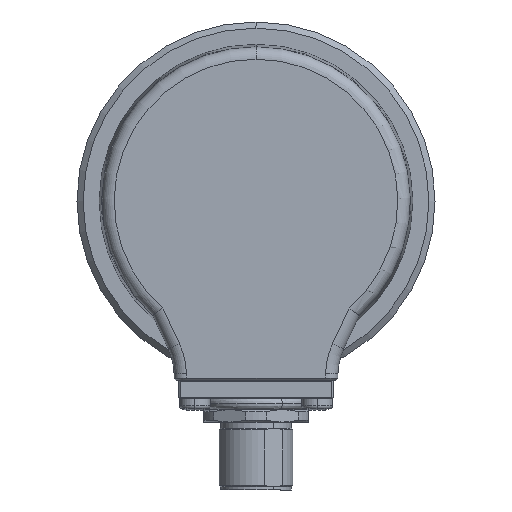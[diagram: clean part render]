
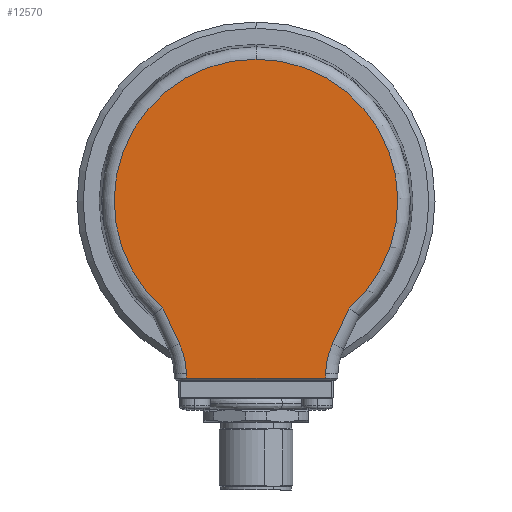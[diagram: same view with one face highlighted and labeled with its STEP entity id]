
A CAD part, left-side view. The second image highlights one B-rep face of the part: STEP entity #12570.
In plain terms, the highlighted planar face has unit normal (-1, 0, 0).
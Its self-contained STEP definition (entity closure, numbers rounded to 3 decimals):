
#21 = DIRECTION ( 'NONE',  ( 1., 0., 0. ) ) ;
#1113 = ORIENTED_EDGE ( 'NONE', *, *, #14221, .T. ) ;
#1434 = AXIS2_PLACEMENT_3D ( 'NONE', #9252, #21, #10820 ) ;
#1819 = FACE_OUTER_BOUND ( 'NONE', #8671, .T. ) ;
#1936 = CARTESIAN_POINT ( 'NONE',  ( -21., -14.953, -17.615 ) ) ;
#2049 = ORIENTED_EDGE ( 'NONE', *, *, #5056, .T. ) ;
#2226 = ORIENTED_EDGE ( 'NONE', *, *, #18237, .T. ) ;
#2241 = DIRECTION ( 'NONE',  ( -1., 0., 0. ) ) ;
#2459 = DIRECTION ( 'NONE',  ( 1., 0., 0. ) ) ;
#2555 = CARTESIAN_POINT ( 'NONE',  ( -21., 11.752, -0.205 ) ) ;
#3183 = ORIENTED_EDGE ( 'NONE', *, *, #9182, .T. ) ;
#3276 = CARTESIAN_POINT ( 'NONE',  ( -21., 0., 0. ) ) ;
#4048 = DIRECTION ( 'NONE',  ( 0., -1., 0. ) ) ;
#4131 = CARTESIAN_POINT ( 'NONE',  ( -21., 11.255, -28.695 ) ) ;
#4388 = LINE ( 'NONE', #2555, #12165 ) ;
#4516 = EDGE_CURVE ( 'NONE', #13692, #12330, #17006, .T. ) ;
#4808 = DIRECTION ( 'NONE',  ( 0., 0., 1. ) ) ;
#4907 = CARTESIAN_POINT ( 'NONE',  ( -21., -11.268, -27.974 ) ) ;
#5056 = EDGE_CURVE ( 'NONE', #12330, #19786, #17470, .T. ) ;
#5142 = VECTOR ( 'NONE', #7321, 1000. ) ;
#5203 = CARTESIAN_POINT ( 'NONE',  ( -21., 23.266, -28.183 ) ) ;
#5383 = VERTEX_POINT ( 'NONE', #15398 ) ;
#5587 = DIRECTION ( 'NONE',  ( 0., -0.017, -1. ) ) ;
#5604 = AXIS2_PLACEMENT_3D ( 'NONE', #11506, #2241, #13036 ) ;
#6137 = AXIS2_PLACEMENT_3D ( 'NONE', #11736, #2459, #13256 ) ;
#6212 = CARTESIAN_POINT ( 'NONE',  ( -21., -11.255, -28.695 ) ) ;
#6322 = VERTEX_POINT ( 'NONE', #4907 ) ;
#6719 = CIRCLE ( 'NONE', #1434, 12. ) ;
#6749 = DIRECTION ( 'NONE',  ( 0., 0., 1. ) ) ;
#7321 = DIRECTION ( 'NONE',  ( 0., -0.423, -0.906 ) ) ;
#7731 = ORIENTED_EDGE ( 'NONE', *, *, #7885, .T. ) ;
#7885 = EDGE_CURVE ( 'NONE', #6322, #9660, #6719, .T. ) ;
#8589 = VECTOR ( 'NONE', #10415, 1000. ) ;
#8597 = PLANE ( 'NONE',  #6137 ) ;
#8671 = EDGE_LOOP ( 'NONE', ( #1113, #2226, #12208, #7731, #9284, #3183, #19175, #17203, #2049 ) ) ;
#8810 = AXIS2_PLACEMENT_3D ( 'NONE', #3276, #14068, #4808 ) ;
#8857 = CARTESIAN_POINT ( 'NONE',  ( -21., -11.752, -0.205 ) ) ;
#9182 = EDGE_CURVE ( 'NONE', #5383, #19260, #16915, .T. ) ;
#9252 = CARTESIAN_POINT ( 'NONE',  ( -21., -23.266, -28.183 ) ) ;
#9284 = ORIENTED_EDGE ( 'NONE', *, *, #14866, .T. ) ;
#9660 = VERTEX_POINT ( 'NONE', #14148 ) ;
#10415 = DIRECTION ( 'NONE',  ( 0., -0.017, 1. ) ) ;
#10820 = DIRECTION ( 'NONE',  ( 0., 0., 1. ) ) ;
#11118 = CARTESIAN_POINT ( 'NONE',  ( -21., 15.091, -17.32 ) ) ;
#11506 = CARTESIAN_POINT ( 'NONE',  ( -21., 0., 0. ) ) ;
#11512 = EDGE_CURVE ( 'NONE', #13953, #6322, #13183, .T. ) ;
#11648 = VECTOR ( 'NONE', #14297, 1000. ) ;
#11736 = CARTESIAN_POINT ( 'NONE',  ( -21., 0., 0. ) ) ;
#12165 = VECTOR ( 'NONE', #5587, 1000. ) ;
#12208 = ORIENTED_EDGE ( 'NONE', *, *, #11512, .T. ) ;
#12330 = VERTEX_POINT ( 'NONE', #15320 ) ;
#12570 = ADVANCED_FACE ( 'NONE', ( #1819 ), #8597, .F. ) ;
#13036 = DIRECTION ( 'NONE',  ( 0., 0., 1. ) ) ;
#13183 = LINE ( 'NONE', #8857, #8589 ) ;
#13256 = DIRECTION ( 'NONE',  ( 0., 0., 1. ) ) ;
#13692 = VERTEX_POINT ( 'NONE', #11118 ) ;
#13953 = VERTEX_POINT ( 'NONE', #6212 ) ;
#14068 = DIRECTION ( 'NONE',  ( -1., 0., 0. ) ) ;
#14148 = CARTESIAN_POINT ( 'NONE',  ( -21., -12.39, -23.112 ) ) ;
#14221 = EDGE_CURVE ( 'NONE', #19786, #16599, #4388, .T. ) ;
#14297 = DIRECTION ( 'NONE',  ( 0., -0.423, 0.906 ) ) ;
#14572 = CARTESIAN_POINT ( 'NONE',  ( -21., 0., 22.972 ) ) ;
#14866 = EDGE_CURVE ( 'NONE', #9660, #5383, #15755, .T. ) ;
#15210 = LINE ( 'NONE', #16370, #18837 ) ;
#15320 = CARTESIAN_POINT ( 'NONE',  ( -21., 12.39, -23.112 ) ) ;
#15398 = CARTESIAN_POINT ( 'NONE',  ( -21., -15.091, -17.32 ) ) ;
#15446 = CIRCLE ( 'NONE', #5604, 22.972 ) ;
#15755 = LINE ( 'NONE', #1936, #11648 ) ;
#16019 = DIRECTION ( 'NONE',  ( 1., 0., 0. ) ) ;
#16370 = CARTESIAN_POINT ( 'NONE',  ( -21., -11.25, -28.695 ) ) ;
#16599 = VERTEX_POINT ( 'NONE', #4131 ) ;
#16601 = CARTESIAN_POINT ( 'NONE',  ( -21., 12.39, -23.112 ) ) ;
#16915 = CIRCLE ( 'NONE', #8810, 22.972 ) ;
#16959 = EDGE_CURVE ( 'NONE', #19260, #13692, #15446, .T. ) ;
#17006 = LINE ( 'NONE', #16601, #5142 ) ;
#17203 = ORIENTED_EDGE ( 'NONE', *, *, #4516, .T. ) ;
#17470 = CIRCLE ( 'NONE', #19116, 12. ) ;
#18237 = EDGE_CURVE ( 'NONE', #16599, #13953, #15210, .T. ) ;
#18837 = VECTOR ( 'NONE', #4048, 1000. ) ;
#19116 = AXIS2_PLACEMENT_3D ( 'NONE', #5203, #16019, #6749 ) ;
#19175 = ORIENTED_EDGE ( 'NONE', *, *, #16959, .T. ) ;
#19260 = VERTEX_POINT ( 'NONE', #14572 ) ;
#19615 = CARTESIAN_POINT ( 'NONE',  ( -21., 11.268, -27.974 ) ) ;
#19786 = VERTEX_POINT ( 'NONE', #19615 ) ;
